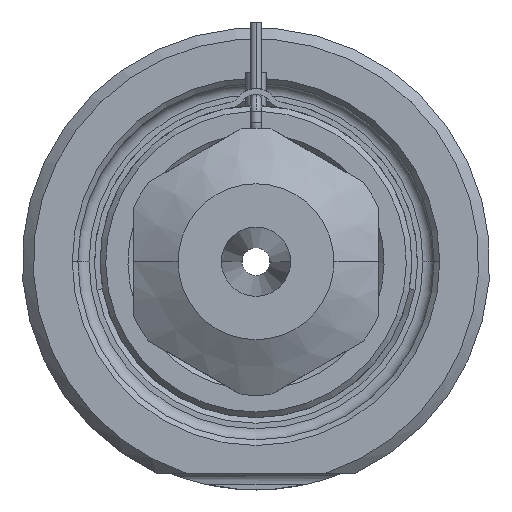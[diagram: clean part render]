
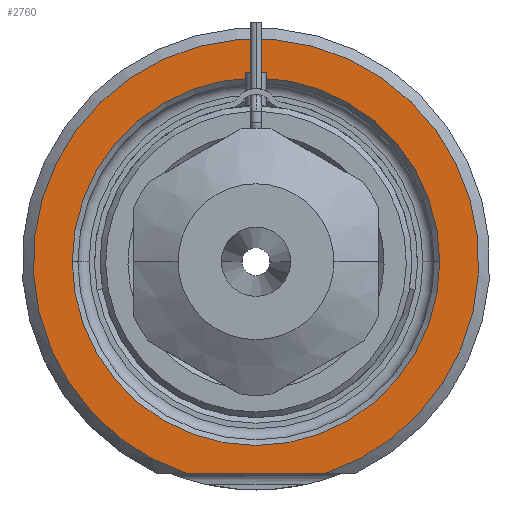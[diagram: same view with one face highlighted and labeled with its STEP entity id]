
A CAD part, front view. The second image highlights one B-rep face of the part: STEP entity #2760.
In plain terms, the highlighted planar face has unit normal (0, -1, 0).
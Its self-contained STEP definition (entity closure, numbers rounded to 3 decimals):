
#1=DIRECTION('',(1.,0.,0.));
#2=VECTOR('',#1,12.49);
#3=CARTESIAN_POINT('',(-6.245,0.,-19.));
#4=LINE('',#3,#2);
#5=CARTESIAN_POINT('',(0.,0.,0.));
#6=DIRECTION('',(0.,1.,0.));
#7=DIRECTION('',(-1.,0.,0.));
#8=AXIS2_PLACEMENT_3D('',#5,#6,#7);
#10=CARTESIAN_POINT('',(0.,0.,0.));
#11=DIRECTION('',(0.,1.,0.));
#12=DIRECTION('',(1.,0.,0.));
#13=AXIS2_PLACEMENT_3D('',#10,#11,#12);
#119=CARTESIAN_POINT('',(0.,0.,0.));
#120=DIRECTION('',(0.,-1.,0.));
#121=DIRECTION('',(0.312,0.,-0.95));
#122=AXIS2_PLACEMENT_3D('',#119,#120,#121);
#2301=CARTESIAN_POINT('',(-16.5,0.,0.));
#2302=CARTESIAN_POINT('',(16.5,0.,0.));
#2303=VERTEX_POINT('',#2301);
#2304=VERTEX_POINT('',#2302);
#2341=CARTESIAN_POINT('',(-6.245,0.,-19.));
#2342=CARTESIAN_POINT('',(6.245,0.,-19.));
#2343=VERTEX_POINT('',#2341);
#2344=VERTEX_POINT('',#2342);
#2743=CARTESIAN_POINT('',(0.,0.,0.));
#2744=DIRECTION('',(0.,-1.,0.));
#2745=DIRECTION('',(1.,0.,0.));
#2746=AXIS2_PLACEMENT_3D('',#2743,#2744,#2745);
#2747=PLANE('',#2746);
#2749=ORIENTED_EDGE('',*,*,#2748,.F.);
#2751=ORIENTED_EDGE('',*,*,#2750,.F.);
#2752=EDGE_LOOP('',(#2749,#2751));
#2753=FACE_OUTER_BOUND('',#2752,.F.);
#2755=ORIENTED_EDGE('',*,*,#2754,.F.);
#2757=ORIENTED_EDGE('',*,*,#2756,.F.);
#2758=EDGE_LOOP('',(#2755,#2757));
#2759=FACE_BOUND('',#2758,.F.);
#2760=ADVANCED_FACE('',(#2753,#2759),#2747,.T.);
#9=CIRCLE('',#8,16.5);
#14=CIRCLE('',#13,16.5);
#123=CIRCLE('',#122,20.);
#2748=EDGE_CURVE('',#2343,#2344,#4,.T.);
#2750=EDGE_CURVE('',#2344,#2343,#123,.T.);
#2754=EDGE_CURVE('',#2303,#2304,#9,.T.);
#2756=EDGE_CURVE('',#2304,#2303,#14,.T.);
